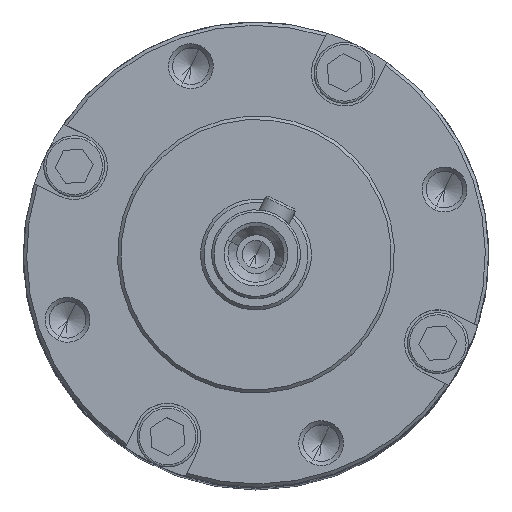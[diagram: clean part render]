
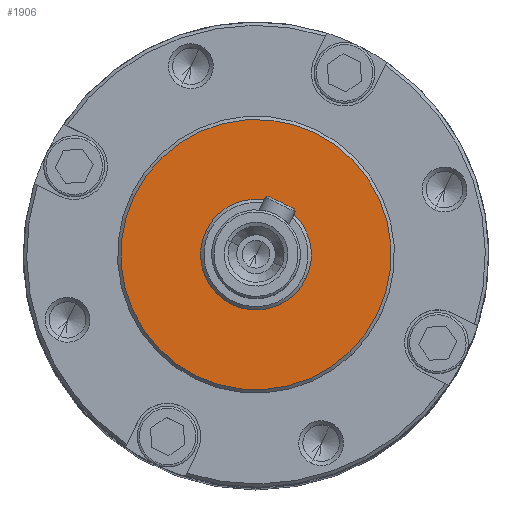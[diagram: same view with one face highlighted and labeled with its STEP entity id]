
A CAD part, top view. The second image highlights one B-rep face of the part: STEP entity #1906.
In plain terms, the highlighted planar face has unit normal (0, 0, 1) as drawn and (0, 1, 0) by its records, which use the part's own axes.
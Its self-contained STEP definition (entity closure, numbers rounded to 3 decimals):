
#188 = PLANE ( 'NONE',  #2401 ) ;
#237 = CARTESIAN_POINT ( 'NONE',  ( 0., 13.2, 0. ) ) ;
#258 = CIRCLE ( 'NONE', #3388, 5. ) ;
#501 = CIRCLE ( 'NONE', #670, 12.2 ) ;
#554 = CARTESIAN_POINT ( 'NONE',  ( -12.2, 13.2, 0. ) ) ;
#587 = EDGE_CURVE ( 'NONE', #2412, #3585, #1299, .T. ) ;
#600 = FACE_BOUND ( 'NONE', #2653, .T. ) ;
#670 = AXIS2_PLACEMENT_3D ( 'NONE', #4898, #1420, #3040 ) ;
#928 = CARTESIAN_POINT ( 'NONE',  ( 0., 13.2, 0. ) ) ;
#952 = AXIS2_PLACEMENT_3D ( 'NONE', #4334, #1165, #5082 ) ;
#998 = DIRECTION ( 'NONE',  ( 0., 0., 1. ) ) ;
#1142 = VERTEX_POINT ( 'NONE', #5094 ) ;
#1165 = DIRECTION ( 'NONE',  ( 0., -1., 0. ) ) ;
#1276 = EDGE_LOOP ( 'NONE', ( #2208, #3204 ) ) ;
#1299 = CIRCLE ( 'NONE', #3521, 12.2 ) ;
#1420 = DIRECTION ( 'NONE',  ( 0., -1., 0. ) ) ;
#1560 = ORIENTED_EDGE ( 'NONE', *, *, #3456, .T. ) ;
#1605 = EDGE_CURVE ( 'NONE', #1825, #1142, #3174, .T. ) ;
#1825 = VERTEX_POINT ( 'NONE', #3196 ) ;
#1906 = ADVANCED_FACE ( 'NONE', ( #600, #4587 ), #188, .T. ) ;
#2030 = ORIENTED_EDGE ( 'NONE', *, *, #1605, .T. ) ;
#2104 = CARTESIAN_POINT ( 'NONE',  ( 12.2, 13.2, 0. ) ) ;
#2141 = DIRECTION ( 'NONE',  ( 1., 0., 0. ) ) ;
#2208 = ORIENTED_EDGE ( 'NONE', *, *, #587, .F. ) ;
#2401 = AXIS2_PLACEMENT_3D ( 'NONE', #237, #3010, #998 ) ;
#2412 = VERTEX_POINT ( 'NONE', #2104 ) ;
#2653 = EDGE_LOOP ( 'NONE', ( #2030, #1560 ) ) ;
#2933 = DIRECTION ( 'NONE',  ( 0., 0., -1. ) ) ;
#3010 = DIRECTION ( 'NONE',  ( 0., 1., 0. ) ) ;
#3040 = DIRECTION ( 'NONE',  ( 1., 0., 0. ) ) ;
#3174 = CIRCLE ( 'NONE', #952, 5. ) ;
#3196 = CARTESIAN_POINT ( 'NONE',  ( 0., 13.2, -5. ) ) ;
#3204 = ORIENTED_EDGE ( 'NONE', *, *, #4111, .F. ) ;
#3326 = CARTESIAN_POINT ( 'NONE',  ( 0., 13.2, 0. ) ) ;
#3388 = AXIS2_PLACEMENT_3D ( 'NONE', #3326, #3750, #2933 ) ;
#3456 = EDGE_CURVE ( 'NONE', #1142, #1825, #258, .T. ) ;
#3521 = AXIS2_PLACEMENT_3D ( 'NONE', #928, #4099, #2141 ) ;
#3585 = VERTEX_POINT ( 'NONE', #554 ) ;
#3750 = DIRECTION ( 'NONE',  ( 0., -1., 0. ) ) ;
#4099 = DIRECTION ( 'NONE',  ( 0., -1., 0. ) ) ;
#4111 = EDGE_CURVE ( 'NONE', #3585, #2412, #501, .T. ) ;
#4334 = CARTESIAN_POINT ( 'NONE',  ( 0., 13.2, 0. ) ) ;
#4587 = FACE_OUTER_BOUND ( 'NONE', #1276, .T. ) ;
#4898 = CARTESIAN_POINT ( 'NONE',  ( 0., 13.2, 0. ) ) ;
#5082 = DIRECTION ( 'NONE',  ( 0., 0., -1. ) ) ;
#5094 = CARTESIAN_POINT ( 'NONE',  ( 0., 13.2, 5. ) ) ;
